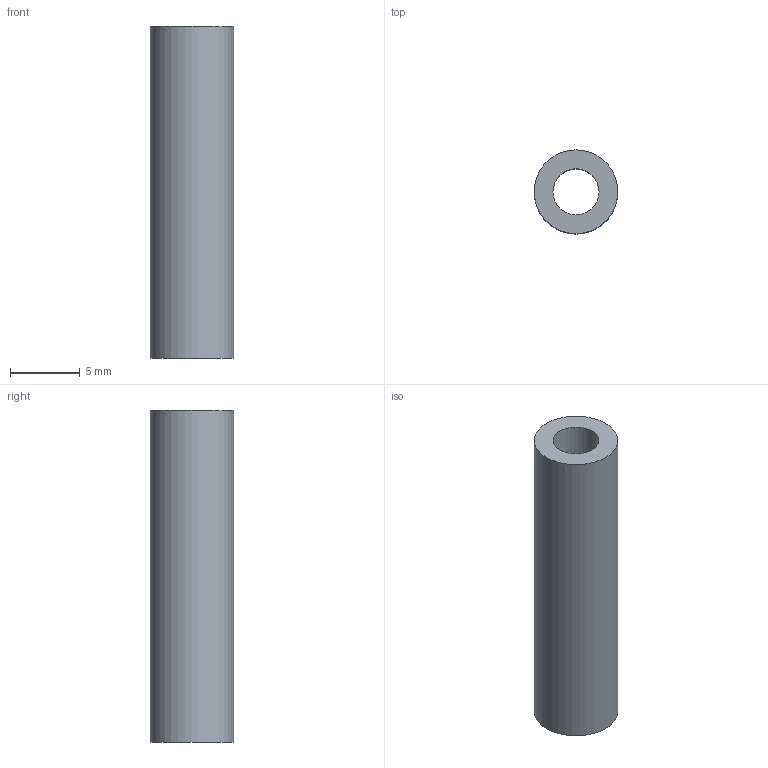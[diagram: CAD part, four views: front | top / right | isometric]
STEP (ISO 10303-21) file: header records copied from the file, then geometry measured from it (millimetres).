
FILE_DESCRIPTION(('FreeCAD Model'),'2;1');
FILE_NAME('Open CASCADE Shape Model','2026-10-15T22:53:25',('FreeCAD'),( 'FreeCAD'),'Open CASCADE STEP processor 7.8','FreeCAD','Unknown');
FILE_SCHEMA(('AUTOMOTIVE_DESIGN { 1 0 10303 214 1 1 1 1 }'));
Length unit declared in the file: millimetre
Products named in the file (1): Open CASCADE STEP translator 7.8 14
Bounding box: 6 x 6 x 23.78 mm (x, y, z)
Volume: 469 mm3; surface area: 734.3 mm2
Topology: 1 solids, 1 shells, 4 faces, 6 edges, 4 vertices
Faces by surface type: cylinder 2, plane 2
Full cylindrical faces by diameter (mm): 3.3 x1, 6 x1
Entity records: 108 total; most frequent: DIRECTION 20, CARTESIAN_POINT 15, ORIENTED_EDGE 12, AXIS2_PLACEMENT_3D 9, FACE_BOUND 6, EDGE_LOOP 6, EDGE_CURVE 6, ADVANCED_FACE 4
